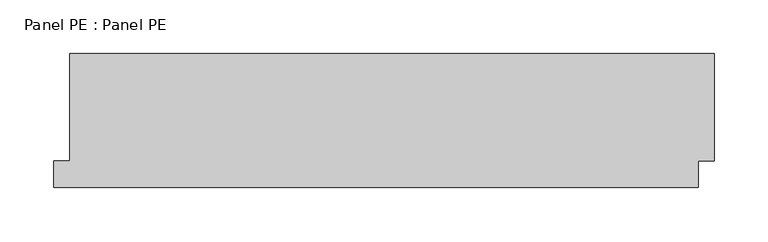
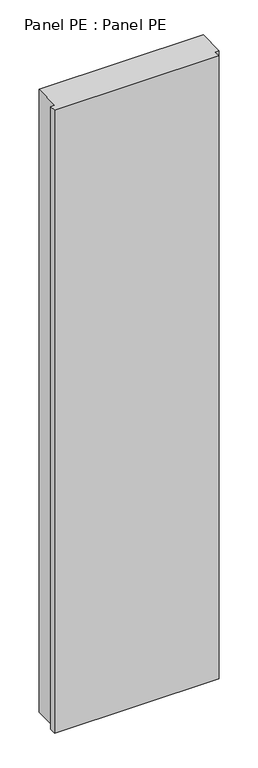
"""IFC4 building model written with IfcOpenShell, lengths in millimetres: plate geometry, Panel PE : Panel PE."""

from ifc_helpers import new_model, si_unit, origin, origin_with_axes, place, context, project, spatial, polyline, outline, extrude, source, transform, mapped, element, save


def panel_pe_panel_pe_2a13838d(model_context):
    return source(origin(), model_context, "Body", "SweptSolid", [
        extrude(outline(polyline([(300.0, 62.5), (300.0, -37.5), (285.0, -37.5), (285.0, -62.5), (-315.0, -62.5), (-315.0, -37.5), (-300.0, -37.5), (-300.0, 62.5), (300.0, 62.5)])), origin_with_axes(), (0.0, 0.0, 1.0), 2400.0),
    ])


if __name__ == "__main__":
    model = new_model("IFC4")
    model_context = context("Model", 3, world=origin())
    ifc_project = project(units=[si_unit("LENGTHUNIT", "METRE", prefix="MILLI")], contexts=[model_context])
    site = spatial("IfcSite", under=ifc_project)
    building = spatial("IfcBuilding", under=site)
    placement = place(None, origin())
    panel_pe_panel_pe_shape = panel_pe_panel_pe_2a13838d(model_context)
    element("IfcPlate", 1, ObjectType="Panel PE : Panel PE", at=placement, inside=building, context=model_context, shape_type="MappedRepresentation", body=[
        mapped(panel_pe_panel_pe_shape, transform((0.0, 0.0, 0.0), x_axis=(1.0, 0.0, 0.0), y_axis=(0.0, 1.0, 0.0), z_axis=(0.0, 0.0, 1.0))),
    ])
    save(model, "model.ifc")
